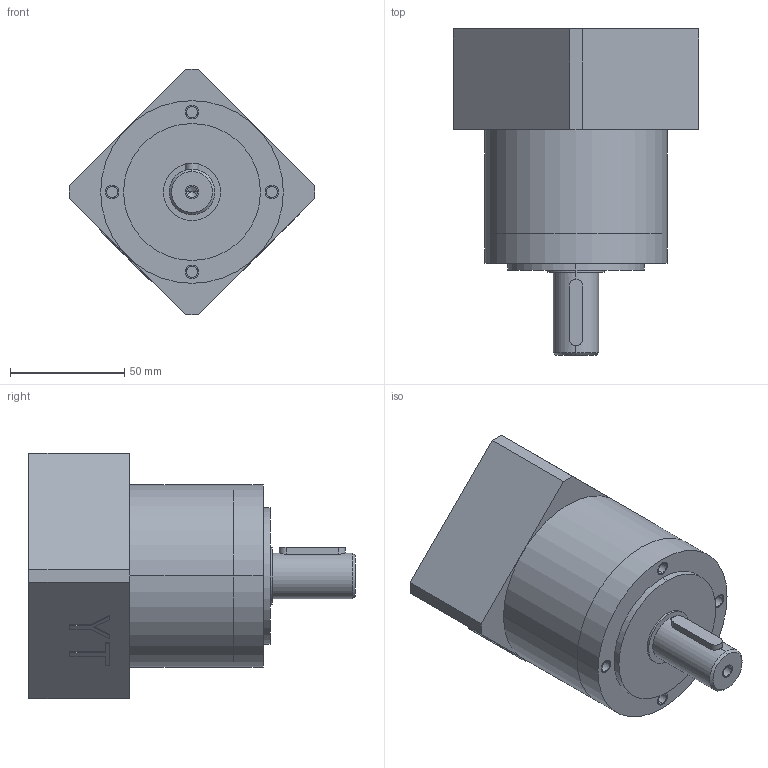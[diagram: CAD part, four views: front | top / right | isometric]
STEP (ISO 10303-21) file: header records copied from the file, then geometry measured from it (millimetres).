
FILE_DESCRIPTION((''),'2;1');
FILE_NAME('PL80L1_ASM','2014-12-27T',('Administrator'),(''),'PRO/ENGINEER BY PARAMETRIC TECHNOLOGY CORPORATION, 2013430','PRO/ENGINEER BY PARAMETRIC TECHNOLOGY CORPORATION, 2013430','');
FILE_SCHEMA(('CONFIG_CONTROL_DESIGN'));
Length unit declared in the file: millimetre
Products named in the file (6): ZHUPL80; XIANTI; LIANZHU; FLAND; LUOSI; PL80L1_ASM
Assembly tree (5 placements, depth 2):
  PL80L1_ASM
    ZHUPL80
    XIANTI
    LIANZHU
    FLAND
    LUOSI
Bounding box: 107.48 x 142.98 x 107.48 mm (x, y, z)
Volume: 506878.9 mm3; surface area: 80886.6 mm2
Topology: 5 solids, 14 shells, 142 faces, 354 edges, 233 vertices
Faces by surface type: plane 65, cylinder 65, cone 12
Entity records: 4507 total; most frequent: CARTESIAN_POINT 853, DIRECTION 798, ORIENTED_EDGE 652, EDGE_CURVE 344, AXIS2_PLACEMENT_3D 305, VERTEX_POINT 233, VECTOR 188, LINE 188
